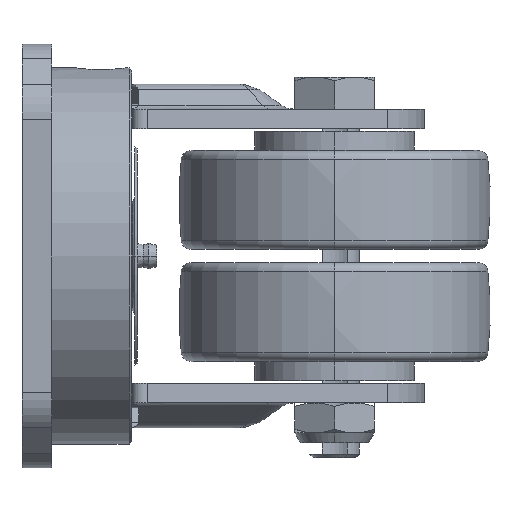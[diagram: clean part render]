
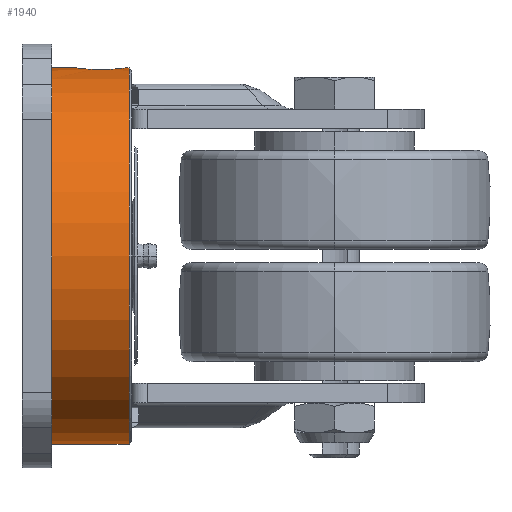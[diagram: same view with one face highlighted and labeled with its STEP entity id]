
A CAD part, left-side view. The second image highlights one B-rep face of the part: STEP entity #1940.
In plain terms, the highlighted cylindrical face has radius 37.75 mm (diameter 75.5 mm), a partial arc.
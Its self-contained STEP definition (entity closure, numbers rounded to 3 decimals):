
#1789=CARTESIAN_POINT('',(0.,-10.8,37.75));
#1790=CARTESIAN_POINT('',(-0.329,-10.8,37.75));
#1791=CARTESIAN_POINT('',(-0.973,-10.863,
37.742));
#1792=CARTESIAN_POINT('',(-1.916,-11.147,
37.705));
#1793=CARTESIAN_POINT('',(-2.782,-11.608,
37.65));
#1794=CARTESIAN_POINT('',(-3.542,-12.226,
37.586));
#1795=CARTESIAN_POINT('',(-4.167,-12.98,
37.521));
#1796=CARTESIAN_POINT('',(-4.636,-13.843,
37.465));
#1797=CARTESIAN_POINT('',(-4.93,-14.789,
37.427));
#1798=CARTESIAN_POINT('',(-5.033,-15.777,
37.413));
#1799=CARTESIAN_POINT('',(-4.939,-16.764,
37.426));
#1800=CARTESIAN_POINT('',(-4.655,-17.712,
37.462));
#1801=CARTESIAN_POINT('',(-4.191,-18.586,
37.518));
#1802=CARTESIAN_POINT('',(-3.566,-19.351,
37.583));
#1803=CARTESIAN_POINT('',(-2.802,-19.98,
37.649));
#1804=CARTESIAN_POINT('',(-1.932,-20.447,
37.704));
#1805=CARTESIAN_POINT('',(-0.981,-20.735,
37.741));
#1806=CARTESIAN_POINT('',(-0.332,-20.8,37.75));
#1807=CARTESIAN_POINT('',(0.,-20.8,37.75));
#1809=CARTESIAN_POINT('',(0.,-5.5,0.));
#1810=DIRECTION('',(0.,1.,0.));
#1811=DIRECTION('',(0.,0.,-1.));
#1812=AXIS2_PLACEMENT_3D('',#1809,#1810,#1811);
#1834=DIRECTION('',(0.,-1.,0.));
#1835=VECTOR('',#1834,5.3);
#1836=CARTESIAN_POINT('',(0.,-5.5,37.75));
#1837=LINE('',#1836,#1835);
#1843=DIRECTION('',(0.,-1.,0.));
#1844=VECTOR('',#1843,16.);
#1845=CARTESIAN_POINT('',(0.,-5.5,-37.75));
#1846=LINE('',#1845,#1844);
#1847=DIRECTION('',(0.,-1.,0.));
#1848=VECTOR('',#1847,0.7);
#1849=CARTESIAN_POINT('',(0.,-20.8,37.75));
#1850=LINE('',#1849,#1848);
#1864=CARTESIAN_POINT('',(0.,-21.5,0.));
#1865=DIRECTION('',(0.,-1.,0.));
#1866=DIRECTION('',(0.,0.,1.));
#1867=AXIS2_PLACEMENT_3D('',#1864,#1865,#1866);
#1899=CARTESIAN_POINT('',(0.,-21.5,37.75));
#1901=VERTEX_POINT('',#1899);
#1903=CARTESIAN_POINT('',(0.,-5.5,-37.75));
#1904=CARTESIAN_POINT('',(0.,-21.5,-37.75));
#1905=VERTEX_POINT('',#1903);
#1906=VERTEX_POINT('',#1904);
#1909=CARTESIAN_POINT('',(0.,-5.5,37.75));
#1910=VERTEX_POINT('',#1909);
#1911=VERTEX_POINT('',#1807);
#1912=VERTEX_POINT('',#1789);
#1921=CARTESIAN_POINT('',(0.,-4.15,0.));
#1922=DIRECTION('',(0.,-1.,0.));
#1923=DIRECTION('',(0.,0.,1.));
#1924=AXIS2_PLACEMENT_3D('',#1921,#1922,#1923);
#1925=CYLINDRICAL_SURFACE('',#1924,37.75);
#1927=ORIENTED_EDGE('',*,*,#1926,.T.);
#1929=ORIENTED_EDGE('',*,*,#1928,.T.);
#1931=ORIENTED_EDGE('',*,*,#1930,.T.);
#1933=ORIENTED_EDGE('',*,*,#1932,.F.);
#1935=ORIENTED_EDGE('',*,*,#1934,.T.);
#1937=ORIENTED_EDGE('',*,*,#1936,.T.);
#1938=EDGE_LOOP('',(#1927,#1929,#1931,#1933,#1935,#1937));
#1939=FACE_OUTER_BOUND('',#1938,.F.);
#1808=B_SPLINE_CURVE_WITH_KNOTS('',3,(#1789,#1790,#1791,#1792,#1793,#1794,#1795,
#1796,#1797,#1798,#1799,#1800,#1801,#1802,#1803,#1804,#1805,#1806,#1807),
.UNSPECIFIED.,.F.,.F.,(4,1,1,1,1,1,1,1,1,1,1,1,1,1,1,1,4),(0.,0.063,0.125,
0.188,0.25,0.313,0.375,0.438,0.5,0.563,0.625,0.688,
0.75,0.813,0.875,0.938,1.),.UNSPECIFIED.);
#1813=CIRCLE('',#1812,37.75);
#1868=CIRCLE('',#1867,37.75);
#1926=EDGE_CURVE('',#1912,#1911,#1808,.T.);
#1928=EDGE_CURVE('',#1911,#1901,#1850,.T.);
#1930=EDGE_CURVE('',#1901,#1906,#1868,.T.);
#1932=EDGE_CURVE('',#1905,#1906,#1846,.T.);
#1934=EDGE_CURVE('',#1905,#1910,#1813,.T.);
#1936=EDGE_CURVE('',#1910,#1912,#1837,.T.);
#1940=ADVANCED_FACE('',(#1939),#1925,.T.);
